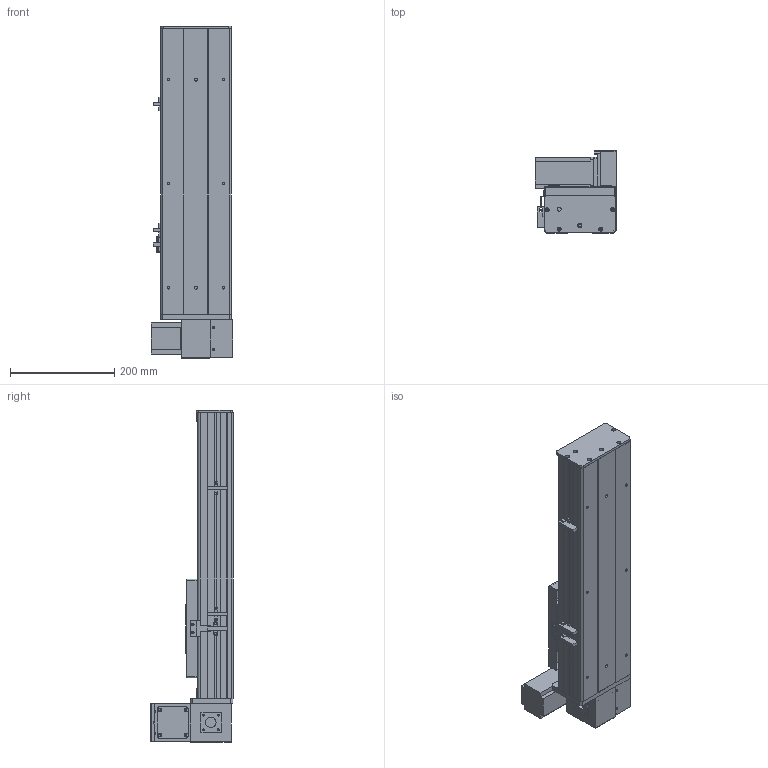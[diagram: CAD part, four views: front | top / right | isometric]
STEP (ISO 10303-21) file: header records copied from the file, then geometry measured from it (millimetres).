
FILE_DESCRIPTION (( 'STEP AP203' ), '1' );
FILE_NAME ('Y135CB-D90-S250-UL-P400W.STEP', '2020-02-18T07:01:09', ( '微软用户' ), ( '微软中国' ), 'SwSTEP 2.0', 'SolidWorks 2017', '' );
FILE_SCHEMA (( 'CONFIG_CONTROL_DESIGN' ));
Length unit declared in the file: millimetre
Products named in the file (18): Y10B-耜蚾蟀諉啣----; san松下电机400不带刹车----; 00B-俋欶BM--; 5CB --掛极耜裔啣-; Y10B--々湍喘謫眊--666; C-詩湍揤踡え-陔; Y135CB-耜裔; Y135CB-D90-S250-UL-P400W; 135CB--詩湍-CE; 135CB---遴掛极.-; Y100-135俋离換覜ん--; 35CB---喘謫眊楊擘啣; Y135C-陔俋离換覜結え-; 0B-埴倛裔啣; 5C--俋欶; 0B-源倛裔啣; C-雄赽釱--; 0B-萇儂楊擘啣
Assembly tree (21 placements, depth 2):
  Y135CB-D90-S250-UL-P400W
    Y135CB-耜裔
    135CB---遴掛极.-
    35CB---喘謫眊楊擘啣
    0B-埴倛裔啣
    0B-源倛裔啣
    0B-萇儂楊擘啣
    san松下电机400不带刹车----
    5CB --掛极耜裔啣-  x2
    C-詩湍揤踡え-陔  x2
    135CB--詩湍-CE
    Y100-135俋离換覜ん--  x3
    Y135C-陔俋离換覜結え-
    5C--俋欶
    C-雄赽釱--
    Y10B-耜蚾蟀諉啣----
    00B-俋欶BM--
    Y10B--々湍喘謫眊--666
Bounding box: 157 x 158.7 x 638 mm (x, y, z)
Volume: 2438826.2 mm3; surface area: 934302.4 mm2
Topology: 21 solids, 21 shells, 929 faces, 2455 edges, 1626 vertices
Faces by surface type: cylinder 457, plane 456, cone 16
Entity records: 28541 total; most frequent: DIRECTION 4739, CARTESIAN_POINT 4636, ORIENTED_EDGE 4386, EDGE_CURVE 2193, AXIS2_PLACEMENT_3D 1721, VERTEX_POINT 1454, VECTOR 1297, LINE 1297
